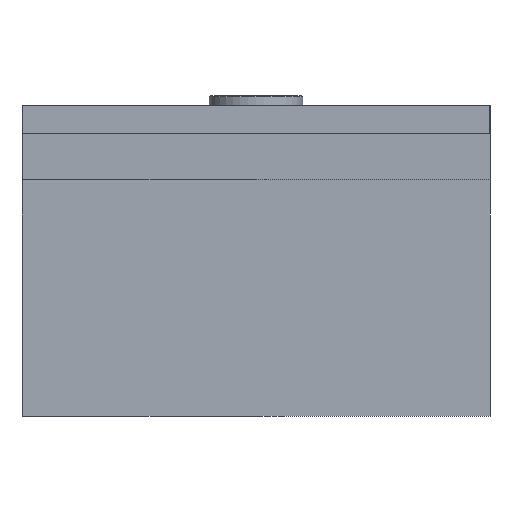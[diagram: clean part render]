
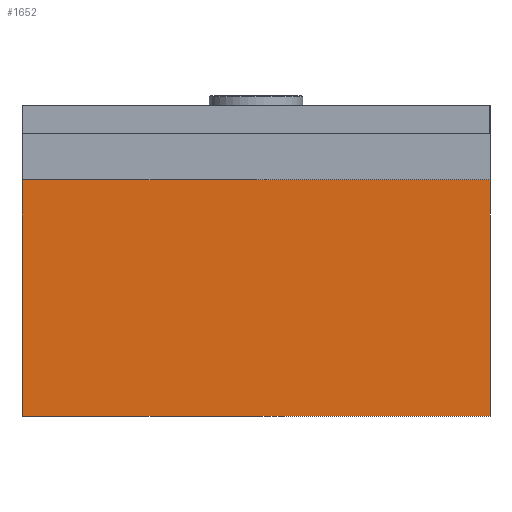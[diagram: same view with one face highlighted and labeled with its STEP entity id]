
A CAD part, left-side view. The second image highlights one B-rep face of the part: STEP entity #1652.
In plain terms, the highlighted planar face has unit normal (-1, 0, 0).
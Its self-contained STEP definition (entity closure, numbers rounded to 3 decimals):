
#1652 = ADVANCED_FACE( '', ( #3636 ), #3637, .F. );
#3636 = FACE_OUTER_BOUND( '', #6093, .T. );
#3637 = PLANE( '', #6094 );
#6093 = EDGE_LOOP( '', ( #9972, #9973, #9974, #9975 ) );
#6094 = AXIS2_PLACEMENT_3D( '', #9976, #9977, #9978 );
#9972 = ORIENTED_EDGE( '', *, *, #13259, .T. );
#9973 = ORIENTED_EDGE( '', *, *, #13260, .F. );
#9974 = ORIENTED_EDGE( '', *, *, #12856, .F. );
#9975 = ORIENTED_EDGE( '', *, *, #13261, .T. );
#9976 = CARTESIAN_POINT( '', ( -250., -250., -352.5 ) );
#9977 = DIRECTION( '', ( 1., 0., 0. ) );
#9978 = DIRECTION( '', ( 0., 1., 0. ) );
#12856 = EDGE_CURVE( '', #15245, #15246, #15247, .T. );
#13259 = EDGE_CURVE( '', #15826, #15827, #15828, .T. );
#13260 = EDGE_CURVE( '', #15246, #15827, #15829, .T. );
#13261 = EDGE_CURVE( '', #15245, #15826, #15830, .T. );
#15245 = VERTEX_POINT( '', #18381 );
#15246 = VERTEX_POINT( '', #18382 );
#15247 = LINE( '', #18383, #18384 );
#15826 = VERTEX_POINT( '', #19166 );
#15827 = VERTEX_POINT( '', #19167 );
#15828 = LINE( '', #19168, #19169 );
#15829 = LINE( '', #19170, #19171 );
#15830 = LINE( '', #19172, #19173 );
#18381 = CARTESIAN_POINT( '', ( -250., -250., -332.5 ) );
#18382 = CARTESIAN_POINT( '', ( -250., 250., -332.5 ) );
#18383 = CARTESIAN_POINT( '', ( -250., -250., -332.5 ) );
#18384 = VECTOR( '', #21128, 1000. );
#19166 = CARTESIAN_POINT( '', ( -250., -250., -80. ) );
#19167 = CARTESIAN_POINT( '', ( -250., 250., -80. ) );
#19168 = CARTESIAN_POINT( '', ( -250., -250., -80. ) );
#19169 = VECTOR( '', #21608, 1000. );
#19170 = CARTESIAN_POINT( '', ( -250., 250., -352.5 ) );
#19171 = VECTOR( '', #21609, 1000. );
#19172 = CARTESIAN_POINT( '', ( -250., -250., -352.5 ) );
#19173 = VECTOR( '', #21610, 1000. );
#21128 = DIRECTION( '', ( 0., 1., 0. ) );
#21608 = DIRECTION( '', ( 0., 1., 0. ) );
#21609 = DIRECTION( '', ( 0., 0., 1. ) );
#21610 = DIRECTION( '', ( 0., 0., 1. ) );
